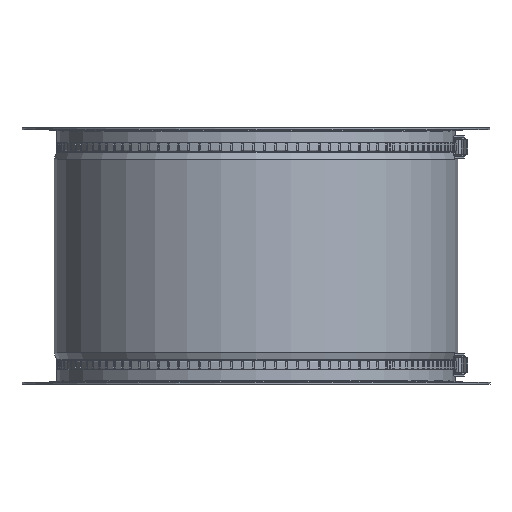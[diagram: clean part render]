
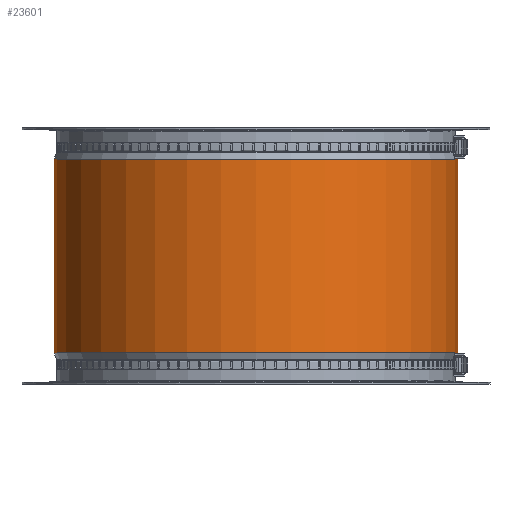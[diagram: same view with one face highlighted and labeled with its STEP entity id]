
A CAD part, front view. The second image highlights one B-rep face of the part: STEP entity #23601.
In plain terms, the highlighted cylindrical face has radius 204.5 mm (diameter 409 mm), a full revolution.
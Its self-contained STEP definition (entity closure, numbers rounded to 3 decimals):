
#5453=FACE_BOUND('',#7076,.T.);
#5671=FACE_OUTER_BOUND('',#7075,.T.);
#7075=EDGE_LOOP('',(#15955));
#7076=EDGE_LOOP('',(#15956));
#8607=CIRCLE('',#25224,204.5);
#8608=CIRCLE('',#25225,204.5);
#9733=VERTEX_POINT('',#34989);
#9734=VERTEX_POINT('',#34991);
#12198=EDGE_CURVE('',#9733,#9733,#8607,.T.);
#12199=EDGE_CURVE('',#9734,#9734,#8608,.T.);
#15955=ORIENTED_EDGE('',*,*,#12198,.F.);
#15956=ORIENTED_EDGE('',*,*,#12199,.F.);
#22990=CYLINDRICAL_SURFACE('',#25223,204.5);
#23601=ADVANCED_FACE('',(#5671,#5453),#22990,.T.);
#25223=AXIS2_PLACEMENT_3D('',#34988,#27922,#27923);
#25224=AXIS2_PLACEMENT_3D('',#34990,#27924,#27925);
#25225=AXIS2_PLACEMENT_3D('',#34992,#27926,#27927);
#27922=DIRECTION('center_axis',(0.,0.,1.));
#27923=DIRECTION('ref_axis',(-1.,0.,0.));
#27924=DIRECTION('center_axis',(0.,0.,-1.));
#27925=DIRECTION('ref_axis',(-1.,0.,0.));
#27926=DIRECTION('center_axis',(0.,0.,1.));
#27927=DIRECTION('ref_axis',(-1.,0.,0.));
#34988=CARTESIAN_POINT('Origin',(0.,0.,0.));
#34989=CARTESIAN_POINT('',(204.5,0.,-98.));
#34990=CARTESIAN_POINT('Origin',(0.,0.,-98.));
#34991=CARTESIAN_POINT('',(204.5,0.,98.));
#34992=CARTESIAN_POINT('Origin',(0.,0.,98.));
